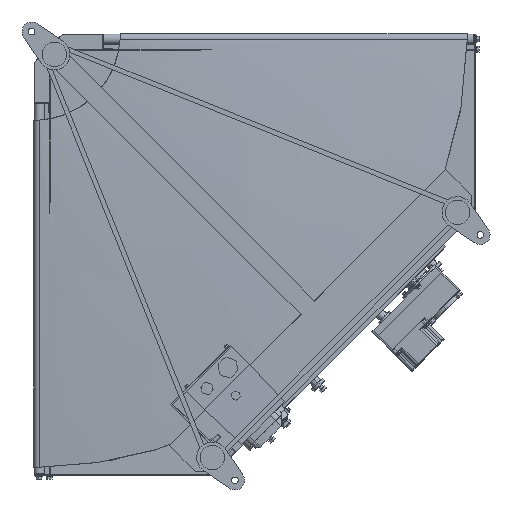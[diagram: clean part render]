
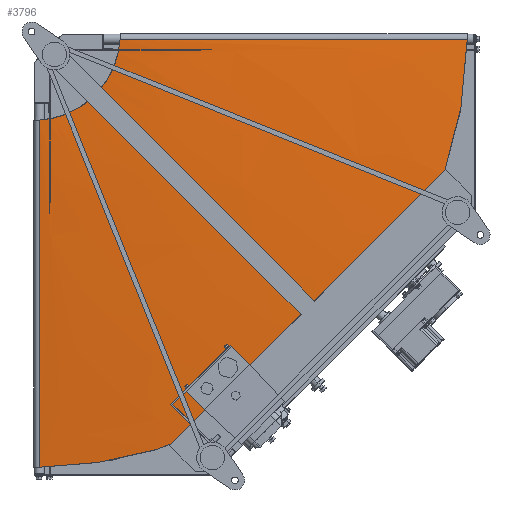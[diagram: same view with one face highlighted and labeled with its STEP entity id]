
A CAD part, front view. The second image highlights one B-rep face of the part: STEP entity #3796.
In plain terms, the highlighted free-form (B-spline) face has degree [3, 3] with [6, 4] control points.
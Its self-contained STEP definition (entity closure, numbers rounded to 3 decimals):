
#3796=ADVANCED_FACE('',(#17892),#17891,.F.);
#17891=( BOUNDED_SURFACE() B_SPLINE_SURFACE( 3,3,((#27755,#27756,#27757,#27758),(#27759,#27760,#27761,#27762),(#27763,#27764,#27765,#27766),(#27767,#27768,#27769,#27770),(#27771,#27772,#27773,#27774),(#27775,#27776,#27777,#27778)), .UNSPECIFIED.,.F.,.F.,.F.) B_SPLINE_SURFACE_WITH_KNOTS((4,2,4),(4,4),(-0.009,0.5,1.009),(-0.056,1.056), .UNSPECIFIED. ) GEOMETRIC_REPRESENTATION_ITEM() RATIONAL_B_SPLINE_SURFACE(((1.,1.,1.,1.),(1.,1.,1.,1.),(1.,1.,1.,1.),(1.,1.,1.,1.),(1.,1.,1.,1.),(1.,1.,1.,1.))) REPRESENTATION_ITEM('') SURFACE() );
#17892=FACE_OUTER_BOUND('',#27779,.T.);
#27755=CARTESIAN_POINT('',(887.462,-18.197,2.469));
#27756=CARTESIAN_POINT('',(635.424,-18.725,-1.12));
#27757=CARTESIAN_POINT('',(383.387,-19.252,-4.71));
#27758=CARTESIAN_POINT('',(131.349,-19.78,-8.299));
#27759=CARTESIAN_POINT('',(887.319,-46.721,-232.504));
#27760=CARTESIAN_POINT('',(634.652,-37.237,-168.456));
#27761=CARTESIAN_POINT('',(381.985,-27.752,-104.409));
#27762=CARTESIAN_POINT('',(129.317,-18.267,-40.361));
#27763=CARTESIAN_POINT('',(792.984,-62.744,-458.764));
#27764=CARTESIAN_POINT('',(567.226,-47.635,-329.337));
#27765=CARTESIAN_POINT('',(341.469,-32.527,-199.911));
#27766=CARTESIAN_POINT('',(115.711,-17.418,-70.484));
#27767=CARTESIAN_POINT('',(458.764,-62.744,-792.984));
#27768=CARTESIAN_POINT('',(329.337,-47.635,-567.226));
#27769=CARTESIAN_POINT('',(199.911,-32.527,-341.469));
#27770=CARTESIAN_POINT('',(70.484,-17.418,-115.711));
#27771=CARTESIAN_POINT('',(232.504,-46.721,-887.319));
#27772=CARTESIAN_POINT('',(168.456,-37.237,-634.652));
#27773=CARTESIAN_POINT('',(104.409,-27.752,-381.985));
#27774=CARTESIAN_POINT('',(40.361,-18.267,-129.317));
#27775=CARTESIAN_POINT('',(-2.469,-18.197,-887.462));
#27776=CARTESIAN_POINT('',(1.12,-18.725,-635.424));
#27777=CARTESIAN_POINT('',(4.71,-19.252,-383.387));
#27778=CARTESIAN_POINT('',(8.299,-19.78,-131.349));
#27779=EDGE_LOOP('',(#34345,#34346,#34347,#34348));
#34345=ORIENTED_EDGE('',*,*,#37393,.F.);
#34346=ORIENTED_EDGE('',*,*,#37596,.T.);
#34347=ORIENTED_EDGE('',*,*,#37388,.T.);
#34348=ORIENTED_EDGE('',*,*,#37399,.F.);
#37388=EDGE_CURVE('',#57206,#57199,#57207,.T.);
#37393=EDGE_CURVE('',#57233,#57219,#57240,.T.);
#37399=EDGE_CURVE('',#57219,#57199,#57280,.T.);
#37596=EDGE_CURVE('',#57233,#57206,#58587,.T.);
#57199=VERTEX_POINT('',#72154);
#57206=VERTEX_POINT('',#72157);
#57207=(BOUNDED_CURVE() B_SPLINE_CURVE(3,(#72158,#72159,#72160,#72161,#72162,#72163,#72164,#72165,#72166,#72167,#72168),.UNSPECIFIED.,.F.,.F.) B_SPLINE_CURVE_WITH_KNOTS((4,1,1,1,1,1,1,1,4),(0.,0.134,0.224,0.334,0.5,0.666,0.776,0.866,1.),.UNSPECIFIED.) CURVE() GEOMETRIC_REPRESENTATION_ITEM() RATIONAL_B_SPLINE_CURVE((1.,1.,1.,1.,1.,1.,1.,1.,1.,1.,1.)) REPRESENTATION_ITEM('') );
#57219=VERTEX_POINT('',#72171);
#57233=VERTEX_POINT('',#72191);
#57240=(BOUNDED_CURVE() B_SPLINE_CURVE(3,(#72196,#72197,#72198,#72199,#72200,#72201,#72202,#72203,#72204,#72205,#72206,#72207,#72208,#72209,#72210),.UNSPECIFIED.,.F.,.F.) B_SPLINE_CURVE_WITH_KNOTS((4,1,1,1,1,1,1,1,1,1,1,1,4),(0.,0.065,0.106,0.2,0.309,0.4,0.5,0.6,0.691,0.8,0.898,0.937,1.),.UNSPECIFIED.) CURVE() GEOMETRIC_REPRESENTATION_ITEM() RATIONAL_B_SPLINE_CURVE((1.,1.,1.,1.,1.,1.,1.,1.,1.,1.,1.,1.,1.,1.,1.)) REPRESENTATION_ITEM('') );
#57280=LINE('',#72310,#72311);
#58587=LINE('',#74159,#74160);
#72154=CARTESIAN_POINT('',(10.,-19.7,-168.704));
#72157=CARTESIAN_POINT('',(168.704,-19.7,-10.));
#72158=CARTESIAN_POINT('',(168.704,-19.7,-10.));
#72159=CARTESIAN_POINT('',(168.056,-19.694,-20.952));
#72160=CARTESIAN_POINT('',(165.188,-19.685,-39.108));
#72161=CARTESIAN_POINT('',(156.616,-19.675,-65.058));
#72162=CARTESIAN_POINT('',(143.203,-19.667,-91.898));
#72163=CARTESIAN_POINT('',(120.677,-19.663,-120.677));
#72164=CARTESIAN_POINT('',(91.898,-19.667,-143.203));
#72165=CARTESIAN_POINT('',(65.058,-19.675,-156.616));
#72166=CARTESIAN_POINT('',(39.108,-19.685,-165.188));
#72167=CARTESIAN_POINT('',(20.952,-19.694,-168.056));
#72168=CARTESIAN_POINT('',(10.,-19.7,-168.704));
#72171=CARTESIAN_POINT('',(10.,-19.7,-848.941));
#72191=CARTESIAN_POINT('',(848.941,-19.7,-10.));
#72196=CARTESIAN_POINT('',(848.941,-19.7,-10.));
#72197=CARTESIAN_POINT('',(848.604,-23.073,-38.474));
#72198=CARTESIAN_POINT('',(845.744,-28.246,-84.516));
#72199=CARTESIAN_POINT('',(833.255,-37.097,-170.948));
#72200=CARTESIAN_POINT('',(807.135,-46.343,-274.394));
#72201=CARTESIAN_POINT('',(756.186,-54.477,-393.432));
#72202=CARTESIAN_POINT('',(686.198,-59.468,-505.219));
#72203=CARTESIAN_POINT('',(602.759,-61.147,-602.737));
#72204=CARTESIAN_POINT('',(505.237,-59.469,-686.189));
#72205=CARTESIAN_POINT('',(393.427,-54.476,-756.188));
#72206=CARTESIAN_POINT('',(272.856,-46.238,-807.794));
#72207=CARTESIAN_POINT('',(168.459,-36.868,-833.827));
#72208=CARTESIAN_POINT('',(81.982,-27.965,-845.926));
#72209=CARTESIAN_POINT('',(37.602,-22.97,-848.615));
#72210=CARTESIAN_POINT('',(10.,-19.7,-848.941));
#72310=CARTESIAN_POINT('',(10.,-19.7,-848.941));
#72311=VECTOR('',#72312,680.237);
#72312=DIRECTION('',(0.,0.,1.));
#74159=CARTESIAN_POINT('',(848.941,-19.7,-10.));
#74160=VECTOR('',#74161,680.237);
#74161=DIRECTION('',(-1.,0.,0.));
